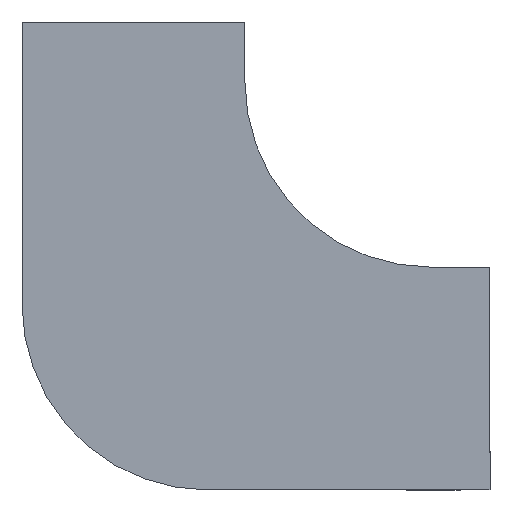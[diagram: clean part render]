
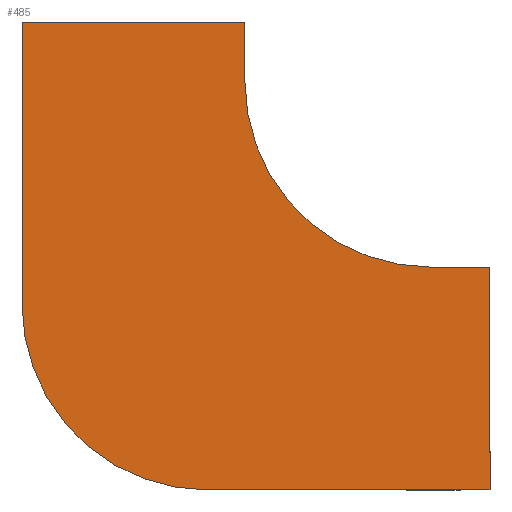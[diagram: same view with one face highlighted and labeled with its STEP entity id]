
A CAD part, front view. The second image highlights one B-rep face of the part: STEP entity #485.
In plain terms, the highlighted planar face has unit normal (0, -1, 0).
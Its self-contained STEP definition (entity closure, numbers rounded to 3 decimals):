
#7 = ORIENTED_EDGE ( 'NONE', *, *, #1391, .F. ) ;
#14 = VERTEX_POINT ( 'NONE', #1613 ) ;
#39 = DIRECTION ( 'NONE',  ( 0., 0., 1. ) ) ;
#62 = EDGE_LOOP ( 'NONE', ( #969, #304, #7, #1387, #266, #494, #401, #466 ) ) ;
#86 = DIRECTION ( 'NONE',  ( 1., 0., 0. ) ) ;
#131 = EDGE_CURVE ( 'NONE', #677, #1542, #751, .T. ) ;
#134 = CARTESIAN_POINT ( 'NONE',  ( -125., 0., 0. ) ) ;
#169 = CARTESIAN_POINT ( 'NONE',  ( -275., 0., -150. ) ) ;
#218 = CIRCLE ( 'NONE', #489, 125. ) ;
#260 = EDGE_CURVE ( 'NONE', #1380, #366, #1017, .T. ) ;
#266 = ORIENTED_EDGE ( 'NONE', *, *, #1047, .F. ) ;
#304 = ORIENTED_EDGE ( 'NONE', *, *, #260, .F. ) ;
#332 = EDGE_CURVE ( 'NONE', #366, #14, #526, .T. ) ;
#366 = VERTEX_POINT ( 'NONE', #1189 ) ;
#391 = CARTESIAN_POINT ( 'NONE',  ( 40., 0., -275. ) ) ;
#401 = ORIENTED_EDGE ( 'NONE', *, *, #939, .F. ) ;
#435 = VERTEX_POINT ( 'NONE', #134 ) ;
#466 = ORIENTED_EDGE ( 'NONE', *, *, #972, .F. ) ;
#485 = ADVANCED_FACE ( 'NONE', ( #1361 ), #1238, .T. ) ;
#489 = AXIS2_PLACEMENT_3D ( 'NONE', #866, #1039, #910 ) ;
#494 = ORIENTED_EDGE ( 'NONE', *, *, #131, .F. ) ;
#526 = LINE ( 'NONE', #1046, #1488 ) ;
#671 = CARTESIAN_POINT ( 'NONE',  ( 0., 0., -125. ) ) ;
#677 = VERTEX_POINT ( 'NONE', #671 ) ;
#751 = LINE ( 'NONE', #1253, #1130 ) ;
#775 = CARTESIAN_POINT ( 'NONE',  ( 40., 0., -275. ) ) ;
#795 = DIRECTION ( 'NONE',  ( -1., 0., 0. ) ) ;
#799 = CARTESIAN_POINT ( 'NONE',  ( -125., 0., 40. ) ) ;
#833 = AXIS2_PLACEMENT_3D ( 'NONE', #1092, #1626, #1497 ) ;
#847 = VECTOR ( 'NONE', #1327, 1000. ) ;
#866 = CARTESIAN_POINT ( 'NONE',  ( 0., 0., 0. ) ) ;
#910 = DIRECTION ( 'NONE',  ( 0., 0., -1. ) ) ;
#939 = EDGE_CURVE ( 'NONE', #435, #677, #218, .T. ) ;
#969 = ORIENTED_EDGE ( 'NONE', *, *, #332, .F. ) ;
#972 = EDGE_CURVE ( 'NONE', #14, #435, #1173, .T. ) ;
#1010 = DIRECTION ( 'NONE',  ( 0., 0., 1. ) ) ;
#1017 = LINE ( 'NONE', #1427, #1627 ) ;
#1039 = DIRECTION ( 'NONE',  ( 0., -1., 0. ) ) ;
#1046 = CARTESIAN_POINT ( 'NONE',  ( -275., 0., 40. ) ) ;
#1047 = EDGE_CURVE ( 'NONE', #1542, #1592, #1091, .T. ) ;
#1080 = CARTESIAN_POINT ( 'NONE',  ( 40., 0., -125. ) ) ;
#1091 = LINE ( 'NONE', #1080, #847 ) ;
#1092 = CARTESIAN_POINT ( 'NONE',  ( 0., 0., 0. ) ) ;
#1130 = VECTOR ( 'NONE', #86, 1000. ) ;
#1152 = LINE ( 'NONE', #775, #1631 ) ;
#1173 = LINE ( 'NONE', #799, #1359 ) ;
#1189 = CARTESIAN_POINT ( 'NONE',  ( -275., 0., 40. ) ) ;
#1213 = DIRECTION ( 'NONE',  ( 0., 1., 0. ) ) ;
#1238 = PLANE ( 'NONE',  #833 ) ;
#1253 = CARTESIAN_POINT ( 'NONE',  ( 0., 0., -125. ) ) ;
#1255 = CARTESIAN_POINT ( 'NONE',  ( 40., 0., -125. ) ) ;
#1306 = CARTESIAN_POINT ( 'NONE',  ( -150., 0., -275. ) ) ;
#1327 = DIRECTION ( 'NONE',  ( 0., 0., -1. ) ) ;
#1359 = VECTOR ( 'NONE', #1547, 1000. ) ;
#1361 = FACE_OUTER_BOUND ( 'NONE', #62, .T. ) ;
#1380 = VERTEX_POINT ( 'NONE', #169 ) ;
#1387 = ORIENTED_EDGE ( 'NONE', *, *, #1621, .F. ) ;
#1391 = EDGE_CURVE ( 'NONE', #1586, #1380, #1578, .T. ) ;
#1427 = CARTESIAN_POINT ( 'NONE',  ( -275., 0., -150. ) ) ;
#1488 = VECTOR ( 'NONE', #1560, 1000. ) ;
#1497 = DIRECTION ( 'NONE',  ( 0., 0., -1. ) ) ;
#1542 = VERTEX_POINT ( 'NONE', #1255 ) ;
#1547 = DIRECTION ( 'NONE',  ( 0., 0., -1. ) ) ;
#1549 = AXIS2_PLACEMENT_3D ( 'NONE', #1585, #1213, #39 ) ;
#1560 = DIRECTION ( 'NONE',  ( 1., 0., 0. ) ) ;
#1578 = CIRCLE ( 'NONE', #1549, 125. ) ;
#1585 = CARTESIAN_POINT ( 'NONE',  ( -150., 0., -150. ) ) ;
#1586 = VERTEX_POINT ( 'NONE', #1306 ) ;
#1592 = VERTEX_POINT ( 'NONE', #391 ) ;
#1613 = CARTESIAN_POINT ( 'NONE',  ( -125., 0., 40. ) ) ;
#1621 = EDGE_CURVE ( 'NONE', #1592, #1586, #1152, .T. ) ;
#1626 = DIRECTION ( 'NONE',  ( 0., -1., 0. ) ) ;
#1627 = VECTOR ( 'NONE', #1010, 1000. ) ;
#1631 = VECTOR ( 'NONE', #795, 1000. ) ;
